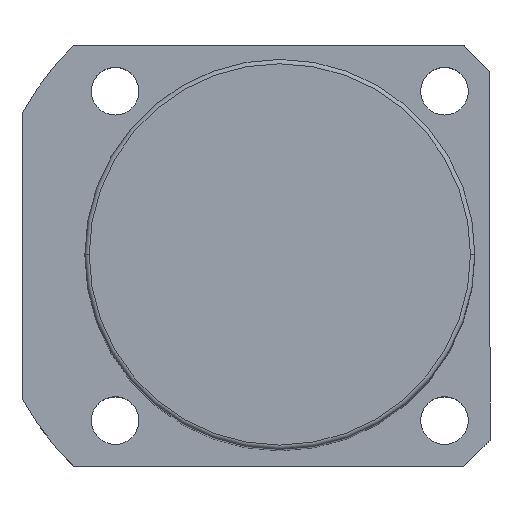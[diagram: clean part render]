
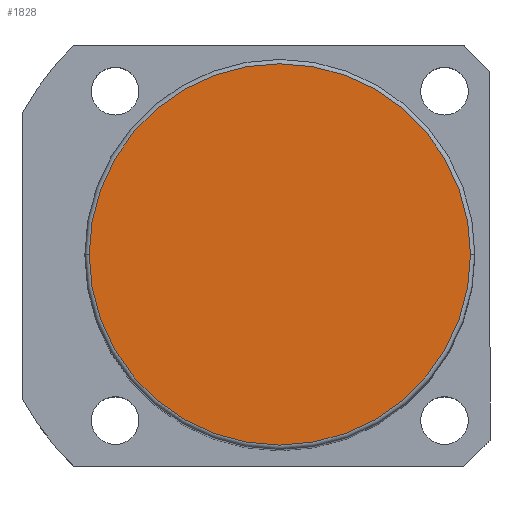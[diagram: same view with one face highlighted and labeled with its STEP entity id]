
A CAD part, top view. The second image highlights one B-rep face of the part: STEP entity #1828.
In plain terms, the highlighted planar face has unit normal (0, 0, 1).
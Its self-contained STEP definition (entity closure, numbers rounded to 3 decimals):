
#31 = CARTESIAN_POINT ( 'NONE',  ( 44., 0., 206.5 ) ) ;
#73 = CARTESIAN_POINT ( 'NONE',  ( 0., 0., 206.5 ) ) ;
#133 = CARTESIAN_POINT ( 'NONE',  ( 0., 0., 206.5 ) ) ;
#197 = CARTESIAN_POINT ( 'NONE',  ( 0., 0., 206.5 ) ) ;
#635 = PLANE ( 'NONE',  #1127 ) ;
#687 = VERTEX_POINT ( 'NONE', #31 ) ;
#782 = CARTESIAN_POINT ( 'NONE',  ( -44., 0., 206.5 ) ) ;
#786 = EDGE_CURVE ( 'NONE', #687, #1600, #1433, .T. ) ;
#821 = DIRECTION ( 'NONE',  ( 1., 0., 0. ) ) ;
#825 = EDGE_CURVE ( 'NONE', #1600, #687, #1877, .T. ) ;
#982 = EDGE_LOOP ( 'NONE', ( #1588, #1233 ) ) ;
#1127 = AXIS2_PLACEMENT_3D ( 'NONE', #133, #2182, #821 ) ;
#1233 = ORIENTED_EDGE ( 'NONE', *, *, #825, .T. ) ;
#1243 = DIRECTION ( 'NONE',  ( 0., 0., 1. ) ) ;
#1401 = DIRECTION ( 'NONE',  ( 1., 0., 0. ) ) ;
#1433 = CIRCLE ( 'NONE', #1534, 44. ) ;
#1466 = DIRECTION ( 'NONE',  ( 0., 0., 1. ) ) ;
#1534 = AXIS2_PLACEMENT_3D ( 'NONE', #197, #1243, #1401 ) ;
#1578 = DIRECTION ( 'NONE',  ( 1., 0., 0. ) ) ;
#1588 = ORIENTED_EDGE ( 'NONE', *, *, #786, .T. ) ;
#1600 = VERTEX_POINT ( 'NONE', #782 ) ;
#1828 = ADVANCED_FACE ( 'NONE', ( #2018 ), #635, .T. ) ;
#1871 = AXIS2_PLACEMENT_3D ( 'NONE', #73, #1466, #1578 ) ;
#1877 = CIRCLE ( 'NONE', #1871, 44. ) ;
#2018 = FACE_OUTER_BOUND ( 'NONE', #982, .T. ) ;
#2182 = DIRECTION ( 'NONE',  ( 0., 0., 1. ) ) ;
